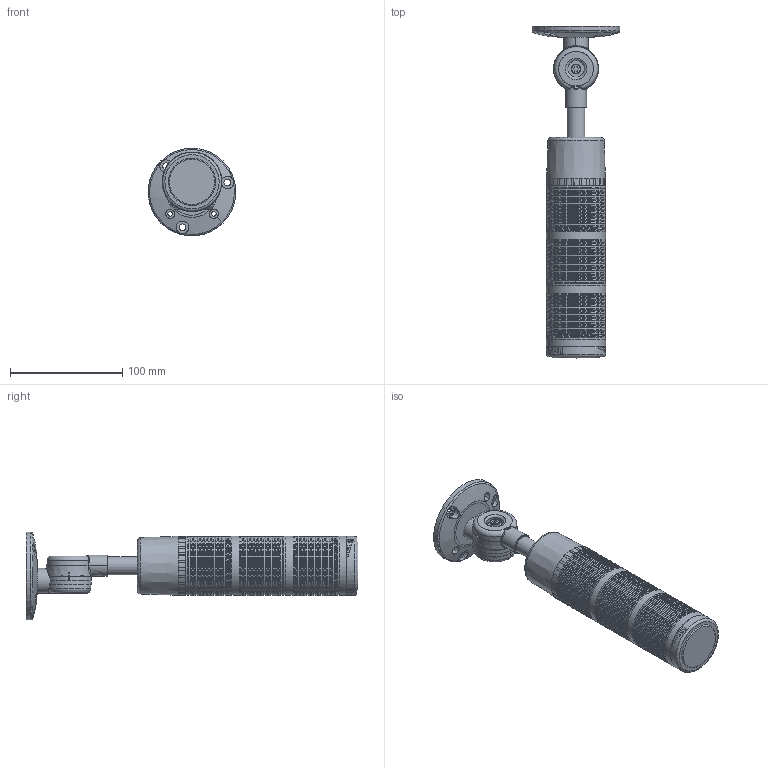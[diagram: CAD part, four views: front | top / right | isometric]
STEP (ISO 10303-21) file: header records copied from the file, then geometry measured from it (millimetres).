
FILE_DESCRIPTION(/* description */ (''),/* implementation_level */ '2;1');
FILE_NAME(/* name */ 'OLM1-301FNPRYG.stp',/* time_stamp */ '2023-04-21T15:43:22+08:00',/* author */ (''),/* organization */ (''),/* preprocessor_version */ 'ST-DEVELOPER v16.7',/* originating_system */ 'SIEMENS PLM Software NX 12.0',/* authorisation */ '');
FILE_SCHEMA (('AUTOMOTIVE_DESIGN { 1 0 10303 214 3 1 1 1 }'));
Products named in the file (1): Admi0E2CF6ACg222
Bounding box: 77.76 x 295.07 x 77.78 mm (x, y, z)
Volume: 175815.7 mm3; surface area: 162892.1 mm2
Topology: 11 solids, 120 shells, 2274 faces, 6586 edges, 4553 vertices
Faces by surface type: plane 1306, cone 413, bspline 300, cylinder 148, torus 102, sphere 5
Full cylindrical faces by diameter (mm): 2 x9, 2.5 x7, 4 x1, 5 x6, 5.5 x1, 6.4 x6, 8.5 x1, 10 x1, 10.2 x1, 11.9 x1, 14.4 x1, 15 x1, 15.4 x1, 15.9 x1, 22.7 x1, 40.18 x1, 45.6 x1, 50.1 x4, 52.782 x3, 52.783 x6, 52.786 x3
Entity records: 109060 total; most frequent: CARTESIAN_POINT 54605, ORIENTED_EDGE 11798, DIRECTION 9321, EDGE_CURVE 6202, VERTEX_POINT 4399, AXIS2_PLACEMENT_3D 3625, EDGE_LOOP 2668, B_SPLINE_CURVE_WITH_KNOTS 2395
